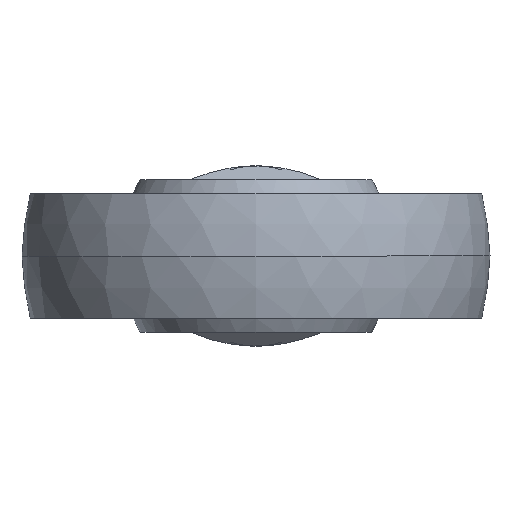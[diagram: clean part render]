
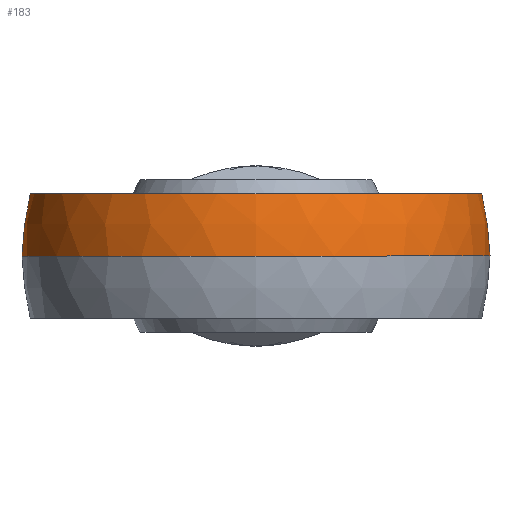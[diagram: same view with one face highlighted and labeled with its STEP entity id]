
A CAD part, left-side view. The second image highlights one B-rep face of the part: STEP entity #183.
In plain terms, the highlighted spherical face has radius 67.5 mm.
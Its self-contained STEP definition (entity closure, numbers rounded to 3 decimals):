
#74 = VERTEX_POINT ( 'NONE', #359 ) ;
#75 = ORIENTED_EDGE ( 'NONE', *, *, #76, .F. ) ;
#76 = EDGE_CURVE ( 'NONE', #134, #74, #358, .T. ) ;
#100 = EDGE_LOOP ( 'NONE', ( #101, #135, #138, #141, #75 ) ) ;
#101 = ORIENTED_EDGE ( 'NONE', *, *, #102, .F. ) ;
#102 = EDGE_CURVE ( 'NONE', #133, #134, #472, .T. ) ;
#133 = VERTEX_POINT ( 'NONE', #528 ) ;
#134 = VERTEX_POINT ( 'NONE', #527 ) ;
#135 = ORIENTED_EDGE ( 'NONE', *, *, #136, .T. ) ;
#136 = EDGE_CURVE ( 'NONE', #133, #137, #526, .T. ) ;
#137 = VERTEX_POINT ( 'NONE', #521 ) ;
#138 = ORIENTED_EDGE ( 'NONE', *, *, #139, .F. ) ;
#139 = EDGE_CURVE ( 'NONE', #140, #137, #520, .T. ) ;
#140 = VERTEX_POINT ( 'NONE', #515 ) ;
#141 = ORIENTED_EDGE ( 'NONE', *, *, #142, .F. ) ;
#142 = EDGE_CURVE ( 'NONE', #74, #140, #576, .T. ) ;
#183 = ADVANCED_FACE ( 'NONE', ( #662 ), #661, .T. ) ;
#354 = DIRECTION ( 'NONE',  ( 0., 1., 0. ) ) ;
#355 = DIRECTION ( 'NONE',  ( 1., 0., 0. ) ) ;
#356 = CARTESIAN_POINT ( 'NONE',  ( 40.389, 0., 0. ) ) ;
#357 = AXIS2_PLACEMENT_3D ( 'NONE', #356, #355, #354 ) ;
#358 = CIRCLE ( 'NONE', #357, 54.083 ) ;
#359 = CARTESIAN_POINT ( 'NONE',  ( 40.389, 51., 18. ) ) ;
#440 = CARTESIAN_POINT ( 'NONE',  ( 0., 0., 0. ) ) ;
#469 = DIRECTION ( 'NONE',  ( -1., 0., 0. ) ) ;
#470 = DIRECTION ( 'NONE',  ( 0., 0., -1. ) ) ;
#471 = AXIS2_PLACEMENT_3D ( 'NONE', #440, #470, #469 ) ;
#472 = CIRCLE ( 'NONE', #471, 67.5 ) ;
#515 = CARTESIAN_POINT ( 'NONE',  ( 40.389, -51., 18. ) ) ;
#516 = DIRECTION ( 'NONE',  ( 0., 1., 0. ) ) ;
#517 = DIRECTION ( 'NONE',  ( 1., 0., 0. ) ) ;
#518 = CARTESIAN_POINT ( 'NONE',  ( 40.389, 0., 0. ) ) ;
#519 = AXIS2_PLACEMENT_3D ( 'NONE', #518, #517, #516 ) ;
#520 = CIRCLE ( 'NONE', #519, 54.083 ) ;
#521 = CARTESIAN_POINT ( 'NONE',  ( 40.389, -54.083, 0. ) ) ;
#522 = DIRECTION ( 'NONE',  ( 0., -1., 0. ) ) ;
#523 = DIRECTION ( 'NONE',  ( 0., 0., 1. ) ) ;
#524 = CARTESIAN_POINT ( 'NONE',  ( 0., 0., 0. ) ) ;
#525 = AXIS2_PLACEMENT_3D ( 'NONE', #524, #523, #522 ) ;
#526 = CIRCLE ( 'NONE', #525, 67.5 ) ;
#527 = CARTESIAN_POINT ( 'NONE',  ( 40.389, 54.083, 0. ) ) ;
#528 = CARTESIAN_POINT ( 'NONE',  ( -67.5, 0., 0. ) ) ;
#572 = DIRECTION ( 'NONE',  ( -1., 0., 0. ) ) ;
#573 = DIRECTION ( 'NONE',  ( 0., 0., 1. ) ) ;
#574 = CARTESIAN_POINT ( 'NONE',  ( 0., 0., 18. ) ) ;
#575 = AXIS2_PLACEMENT_3D ( 'NONE', #574, #573, #572 ) ;
#576 = CIRCLE ( 'NONE', #575, 65.056 ) ;
#657 = DIRECTION ( 'NONE',  ( 0., 1., 0. ) ) ;
#658 = DIRECTION ( 'NONE',  ( 0., 0., 1. ) ) ;
#659 = AXIS2_PLACEMENT_3D ( 'NONE', #660, #658, #657 ) ;
#660 = CARTESIAN_POINT ( 'NONE',  ( 0., 0., 0. ) ) ;
#661 = SPHERICAL_SURFACE ( 'NONE', #659, 67.5 ) ;
#662 = FACE_OUTER_BOUND ( 'NONE', #100, .T. ) ;
